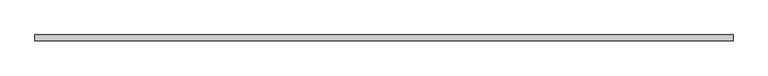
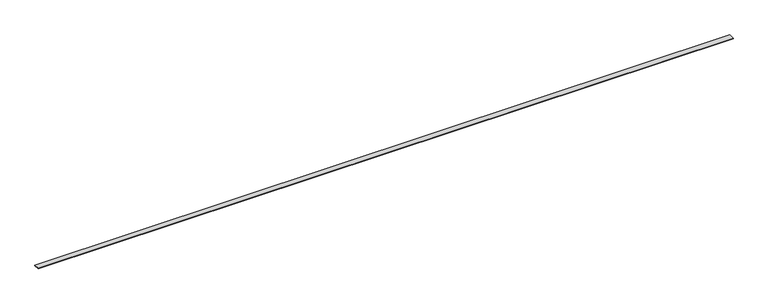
"""IFC4 building model written with IfcOpenShell, lengths in millimetres: plate geometry, Системная панель : С остеклением."""

from ifc_helpers import new_model, si_unit, origin, origin_with_axes, place, context, project, spatial, polyline, outline, extrude, source, transform, mapped, element, save


def plate_289c18be(model_context):
    return source(origin(), model_context, "Body", "SweptSolid", [
        extrude(outline(polyline([(1500.0, 24.5), (-1500.0, 24.5), (-1500.0, 49.5), (1500.0, 49.5), (1500.0, 24.5)])), origin_with_axes(), (0.0, 0.0, 1.0), 2.3130314),
    ])


if __name__ == "__main__":
    model = new_model("IFC4")
    model_context = context("Model", 3, world=origin())
    ifc_project = project(units=[si_unit("LENGTHUNIT", "METRE", prefix="MILLI")], contexts=[model_context])
    site = spatial("IfcSite", under=ifc_project)
    building = spatial("IfcBuilding", under=site)
    placement = place(None, origin())
    plate_shape = plate_289c18be(model_context)
    element("IfcPlate", 1, ObjectType="Системная панель : С остеклением", at=placement, inside=building, context=model_context, shape_type="MappedRepresentation", body=[
        mapped(plate_shape, transform((0.0, 0.0, 0.0), x_axis=(1.0, 0.0, 0.0), y_axis=(0.0, 1.0, 0.0), z_axis=(0.0, 0.0, 1.0))),
    ])
    save(model, "model.ifc")
